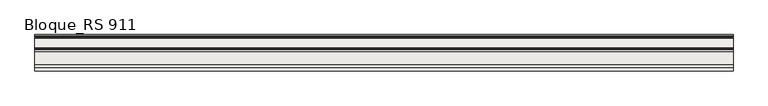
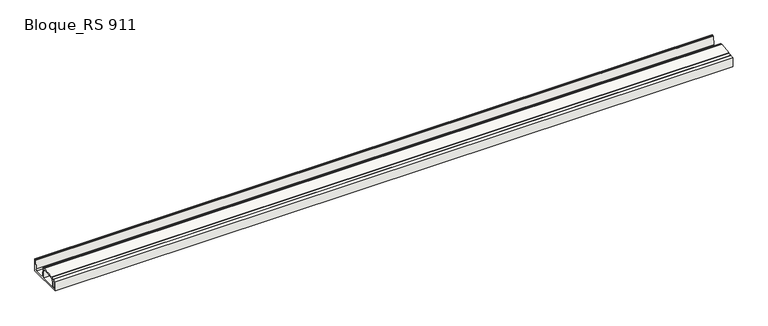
"""IFC4 building model written with IfcOpenShell, lengths in millimetres: slab geometry, ROSA GRES_RS 911 : Bloque_RS 911."""

from ifc_helpers import new_model, si_unit, point, frame, frame_2d, origin, place, context, project, spatial, polyline, circle_curve, trimmed, segment, composite_curve, outline, extrude, source, transform, mapped, element, save


def bloque_rs_911_b258f033(model_context):
    return source(origin(), model_context, "Body", "SweptSolid", [
        extrude(outline(composite_curve([segment(polyline([(12.836227, 1.7539108), (12.836227, 171.9333029), (67.836227, 176.4100471), (67.836227, 173.8170239), (72.836227, 173.8170239), (72.836227, 176.8170239), (125.1172881, 181.0724591), (123.836227, 196.8112099), (343.836227, 214.7181867), (343.836227, 216.3460936), (363.836227, 216.3460936), (363.836227, 206.3460936), (381.836227, 206.3460936), (393.5484732, 55.2086635)]), True, "CONTINUOUS"), segment(trimmed(circle_curve(frame_2d((413.4886891, 56.7539108)), 20.0), [point((393.5484732, 55.2086635))], [point((413.4886891, 36.7539108))], True, "CARTESIAN"), True, "CONTINUOUS"), segment(polyline([(413.4886891, 36.7539108), (567.1837649, 36.7539108)]), True, "CONTINUOUS"), segment(trimmed(circle_curve(frame_2d((567.1837649, 56.7539108)), 20.0), [point((567.1837649, 36.7539108))], [point((587.1239808, 55.2086635))], True, "CARTESIAN"), True, "CONTINUOUS"), segment(polyline([(587.1239808, 55.2086635), (598.836227, 206.3460936), (616.836227, 206.3460936), (616.836227, 216.3460936), (626.836227, 216.3460936), (626.836227, 1.7539108), (12.836227, 1.7539108)]), True, "CONTINUOUS")], self_intersect=False), holes=[composite_curve([segment(trimmed(circle_curve(frame_2d((59.836227, 140.6431347)), 8.0), [point((67.836227, 140.6431347))], [point((59.1872106, 148.6167648))], True, "CARTESIAN"), True, "CONTINUOUS"), segment(polyline([(59.1872106, 148.6167648), (47.1872106, 147.6400206)]), True, "CONTINUOUS"), segment(trimmed(circle_curve(frame_2d((47.836227, 139.6663905)), 8.0), [point((47.1872106, 147.6400206))], [point((39.836227, 139.6663905))], True, "CARTESIAN"), True, "CONTINUOUS"), segment(polyline([(39.836227, 139.6663905), (39.836227, 36.7539108)]), True, "CONTINUOUS"), segment(trimmed(circle_curve(frame_2d((47.836227, 36.7539108)), 8.0), [point((39.836227, 36.7539108))], [point((47.836227, 28.7539108))], True, "CARTESIAN"), True, "CONTINUOUS"), segment(polyline([(47.836227, 28.7539108), (59.836227, 28.7539108)]), True, "CONTINUOUS"), segment(trimmed(circle_curve(frame_2d((59.836227, 36.7539108)), 8.0), [point((59.836227, 28.7539108))], [point((67.836227, 36.7539108))], True, "CARTESIAN"), True, "CONTINUOUS"), segment(polyline([(67.836227, 36.7539108), (67.836227, 140.6431347)]), True, "CONTINUOUS")], self_intersect=False), composite_curve([segment(trimmed(circle_curve(frame_2d((187.3063127, 84.534333)), 85.0), [point((180.4105134, 169.2541533))], [point((102.3063127, 84.534333))], True, "CARTESIAN"), True, "CONTINUOUS"), segment(polyline([(102.3063127, 84.534333), (102.3063127, 28.7539108), (356.3063127, 28.7539108), (356.3063127, 161.8772036)]), True, "CONTINUOUS"), segment(trimmed(circle_curve(frame_2d((336.3063127, 161.8772036)), 20.0), [point((356.3063127, 161.8772036))], [point((334.6837717, 181.811279))], True, "CARTESIAN"), True, "CONTINUOUS"), segment(polyline([(334.6837717, 181.811279), (180.4105134, 169.2541533)]), True, "CONTINUOUS")], self_intersect=False)]), frame((0.0, 0.0, 0.0), z_axis=(1.0, 0.0, 0.0), x_axis=(0.0, 1.0, 0.0)), (0.0, 0.0, 1.0), 11791.977076),
    ])


if __name__ == "__main__":
    model = new_model("IFC4")
    model_context = context("Model", 3, world=origin())
    ifc_project = project(units=[si_unit("LENGTHUNIT", "METRE", prefix="MILLI")], contexts=[model_context])
    site = spatial("IfcSite", under=ifc_project)
    building = spatial("IfcBuilding", under=site)
    placement = place(None, origin())
    bloque_rs_911_shape = bloque_rs_911_b258f033(model_context)
    element("IfcSlab", 1, ObjectType="ROSA GRES_RS 911 : Bloque_RS 911", at=placement, inside=building, context=model_context, shape_type="MappedRepresentation", body=[
        mapped(bloque_rs_911_shape, transform((0.0, 0.0, 0.0), x_axis=(1.0, 0.0, 0.0), y_axis=(0.0, 1.0, 0.0), z_axis=(0.0, 0.0, 1.0))),
    ])
    save(model, "model.ifc")
